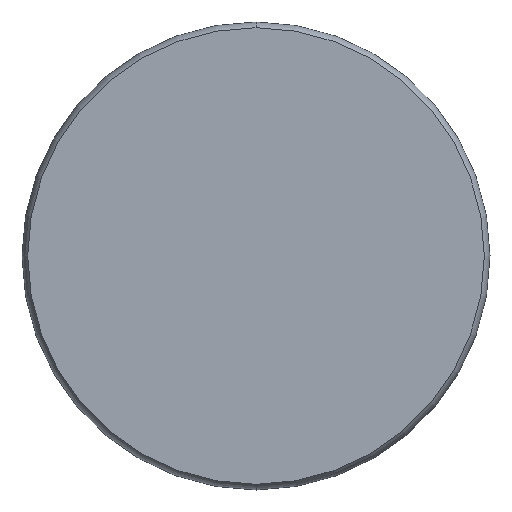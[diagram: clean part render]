
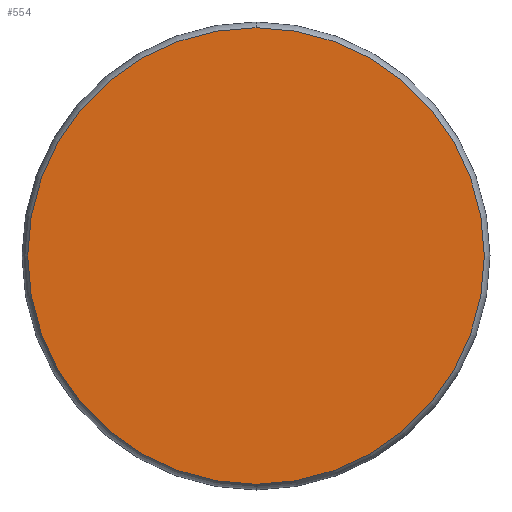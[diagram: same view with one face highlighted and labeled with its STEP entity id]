
A CAD part, front view. The second image highlights one B-rep face of the part: STEP entity #554.
In plain terms, the highlighted planar face has unit normal (0, -1, 0).
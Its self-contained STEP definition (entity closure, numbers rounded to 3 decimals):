
#20 = VERTEX_POINT ( 'NONE', #247 ) ;
#71 = DIRECTION ( 'NONE',  ( 0., 1., 0. ) ) ;
#74 = FACE_OUTER_BOUND ( 'NONE', #353, .T. ) ;
#77 = CARTESIAN_POINT ( 'NONE',  ( 0., 0., 6. ) ) ;
#84 = EDGE_CURVE ( 'NONE', #20, #230, #981, .T. ) ;
#139 = DIRECTION ( 'NONE',  ( 0., 1., 0. ) ) ;
#180 = DIRECTION ( 'NONE',  ( 0., 0., 1. ) ) ;
#230 = VERTEX_POINT ( 'NONE', #77 ) ;
#247 = CARTESIAN_POINT ( 'NONE',  ( 0., 0., -6. ) ) ;
#251 = CARTESIAN_POINT ( 'NONE',  ( 0., 0., 0. ) ) ;
#353 = EDGE_LOOP ( 'NONE', ( #357, #454 ) ) ;
#357 = ORIENTED_EDGE ( 'NONE', *, *, #526, .F. ) ;
#446 = DIRECTION ( 'NONE',  ( 0., 0., 1. ) ) ;
#454 = ORIENTED_EDGE ( 'NONE', *, *, #84, .F. ) ;
#467 = CIRCLE ( 'NONE', #964, 6. ) ;
#523 = PLANE ( 'NONE',  #633 ) ;
#526 = EDGE_CURVE ( 'NONE', #230, #20, #467, .T. ) ;
#535 = CARTESIAN_POINT ( 'NONE',  ( 0., 0., -6. ) ) ;
#554 = ADVANCED_FACE ( 'NONE', ( #74 ), #523, .F. ) ;
#562 = DIRECTION ( 'NONE',  ( 0., 1., 0. ) ) ;
#574 = AXIS2_PLACEMENT_3D ( 'NONE', #251, #562, #180 ) ;
#633 = AXIS2_PLACEMENT_3D ( 'NONE', #535, #139, #446 ) ;
#829 = DIRECTION ( 'NONE',  ( 0., 0., 1. ) ) ;
#914 = CARTESIAN_POINT ( 'NONE',  ( 0., 0., 0. ) ) ;
#964 = AXIS2_PLACEMENT_3D ( 'NONE', #914, #71, #829 ) ;
#981 = CIRCLE ( 'NONE', #574, 6. ) ;
